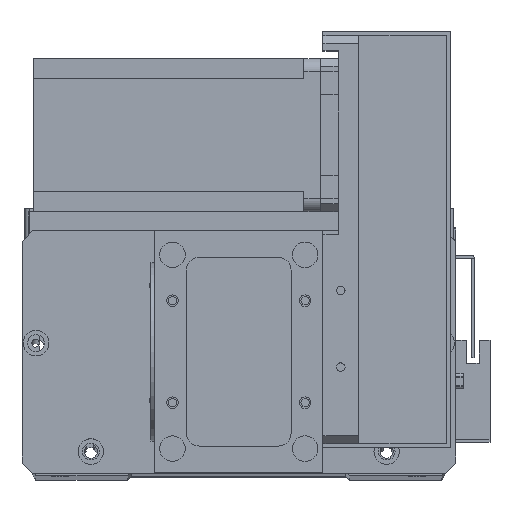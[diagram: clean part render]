
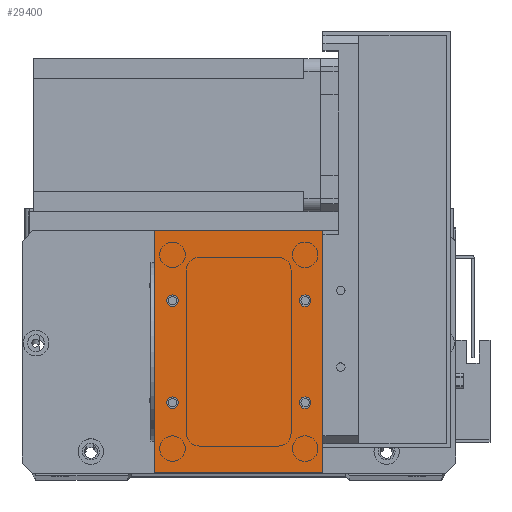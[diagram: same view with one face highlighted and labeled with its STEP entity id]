
A CAD part, top view. The second image highlights one B-rep face of the part: STEP entity #29400.
In plain terms, the highlighted planar face has unit normal (0, 0, 1).
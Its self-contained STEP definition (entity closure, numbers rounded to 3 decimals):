
#336 = EDGE_CURVE ( 'NONE', #11571, #9688, #523, .T. ) ;
#523 = CIRCLE ( 'NONE', #25957, 2.25 ) ;
#612 = ORIENTED_EDGE ( 'NONE', *, *, #6720, .T. ) ;
#632 = DIRECTION ( 'NONE',  ( 0., 1., 0. ) ) ;
#938 = AXIS2_PLACEMENT_3D ( 'NONE', #5453, #22619, #7917 ) ;
#2481 = CARTESIAN_POINT ( 'NONE',  ( 0., 95., 2. ) ) ;
#2779 = EDGE_CURVE ( 'NONE', #21069, #14179, #20001, .T. ) ;
#2877 = EDGE_LOOP ( 'NONE', ( #8292, #4698 ) ) ;
#3266 = AXIS2_PLACEMENT_3D ( 'NONE', #18095, #25471, #10801 ) ;
#3626 = DIRECTION ( 'NONE',  ( 0., 0., 1. ) ) ;
#3847 = VERTEX_POINT ( 'NONE', #27980 ) ;
#4087 = CARTESIAN_POINT ( 'NONE',  ( 59., 27.5, 2. ) ) ;
#4698 = ORIENTED_EDGE ( 'NONE', *, *, #27574, .F. ) ;
#4974 = CIRCLE ( 'NONE', #21291, 2.25 ) ;
#5453 = CARTESIAN_POINT ( 'NONE',  ( 59., 67.5, 2. ) ) ;
#5831 = FACE_BOUND ( 'NONE', #2877, .T. ) ;
#6563 = DIRECTION ( 'NONE',  ( 1., 0., 0. ) ) ;
#6704 = EDGE_LOOP ( 'NONE', ( #13776, #18610 ) ) ;
#6720 = EDGE_CURVE ( 'NONE', #24523, #27992, #27068, .T. ) ;
#6893 = VERTEX_POINT ( 'NONE', #10538 ) ;
#7282 = CIRCLE ( 'NONE', #9818, 2.25 ) ;
#7439 = EDGE_CURVE ( 'NONE', #11467, #23763, #16336, .T. ) ;
#7917 = DIRECTION ( 'NONE',  ( 1., 0., 0. ) ) ;
#8198 = PLANE ( 'NONE',  #3266 ) ;
#8271 = EDGE_CURVE ( 'NONE', #23763, #11467, #21639, .T. ) ;
#8292 = ORIENTED_EDGE ( 'NONE', *, *, #30642, .F. ) ;
#8588 = CARTESIAN_POINT ( 'NONE',  ( 56.75, 67.5, 2. ) ) ;
#8765 = DIRECTION ( 'NONE',  ( 1., 0., 0. ) ) ;
#8955 = EDGE_LOOP ( 'NONE', ( #19596, #26141 ) ) ;
#9002 = DIRECTION ( 'NONE',  ( 0., 0., 1. ) ) ;
#9212 = ORIENTED_EDGE ( 'NONE', *, *, #8271, .F. ) ;
#9688 = VERTEX_POINT ( 'NONE', #25672 ) ;
#9818 = AXIS2_PLACEMENT_3D ( 'NONE', #23714, #9002, #26186 ) ;
#10538 = CARTESIAN_POINT ( 'NONE',  ( 9.25, 67.5, 2. ) ) ;
#10801 = DIRECTION ( 'NONE',  ( -1., 0., 0. ) ) ;
#10852 = CARTESIAN_POINT ( 'NONE',  ( 0., 0., 2. ) ) ;
#11467 = VERTEX_POINT ( 'NONE', #22783 ) ;
#11571 = VERTEX_POINT ( 'NONE', #28549 ) ;
#12362 = AXIS2_PLACEMENT_3D ( 'NONE', #18343, #3626, #20800 ) ;
#12400 = FACE_BOUND ( 'NONE', #26612, .T. ) ;
#12555 = ORIENTED_EDGE ( 'NONE', *, *, #7439, .F. ) ;
#12662 = CARTESIAN_POINT ( 'NONE',  ( 59., 27.5, 2. ) ) ;
#13776 = ORIENTED_EDGE ( 'NONE', *, *, #14464, .F. ) ;
#14024 = VECTOR ( 'NONE', #19775, 1000. ) ;
#14032 = DIRECTION ( 'NONE',  ( 0., 0., 1. ) ) ;
#14179 = VERTEX_POINT ( 'NONE', #17350 ) ;
#14392 = CARTESIAN_POINT ( 'NONE',  ( 7., 67.5, 2. ) ) ;
#14464 = EDGE_CURVE ( 'NONE', #9688, #11571, #7282, .T. ) ;
#14601 = EDGE_CURVE ( 'NONE', #6893, #3847, #4974, .T. ) ;
#15129 = DIRECTION ( 'NONE',  ( 1., 0., 0. ) ) ;
#15972 = LINE ( 'NONE', #20301, #21692 ) ;
#16099 = EDGE_CURVE ( 'NONE', #27992, #21069, #17963, .T. ) ;
#16336 = CIRCLE ( 'NONE', #18649, 2.25 ) ;
#16864 = DIRECTION ( 'NONE',  ( 1., 0., 0. ) ) ;
#16891 = CARTESIAN_POINT ( 'NONE',  ( 66., 95., 2. ) ) ;
#17310 = EDGE_CURVE ( 'NONE', #14179, #24523, #15972, .T. ) ;
#17350 = CARTESIAN_POINT ( 'NONE',  ( 66., 0., 2. ) ) ;
#17747 = CIRCLE ( 'NONE', #12362, 2.25 ) ;
#17963 = LINE ( 'NONE', #20927, #28709 ) ;
#18095 = CARTESIAN_POINT ( 'NONE',  ( 0., 0., 2. ) ) ;
#18118 = CIRCLE ( 'NONE', #28794, 2.25 ) ;
#18343 = CARTESIAN_POINT ( 'NONE',  ( 7., 67.5, 2. ) ) ;
#18561 = ORIENTED_EDGE ( 'NONE', *, *, #2779, .T. ) ;
#18610 = ORIENTED_EDGE ( 'NONE', *, *, #336, .F. ) ;
#18649 = AXIS2_PLACEMENT_3D ( 'NONE', #12662, #29798, #15129 ) ;
#18756 = CARTESIAN_POINT ( 'NONE',  ( 0., 0., 2. ) ) ;
#18898 = FACE_BOUND ( 'NONE', #8955, .T. ) ;
#19596 = ORIENTED_EDGE ( 'NONE', *, *, #14601, .F. ) ;
#19730 = CARTESIAN_POINT ( 'NONE',  ( 0., 95., 2. ) ) ;
#19775 = DIRECTION ( 'NONE',  ( -1., 0., 0. ) ) ;
#20001 = LINE ( 'NONE', #10852, #31471 ) ;
#20301 = CARTESIAN_POINT ( 'NONE',  ( 66., 0., 2. ) ) ;
#20800 = DIRECTION ( 'NONE',  ( 1., 0., 0. ) ) ;
#20905 = CIRCLE ( 'NONE', #938, 2.25 ) ;
#20927 = CARTESIAN_POINT ( 'NONE',  ( 0., 0., 2. ) ) ;
#21069 = VERTEX_POINT ( 'NONE', #18756 ) ;
#21240 = DIRECTION ( 'NONE',  ( 0., 0., 1. ) ) ;
#21291 = AXIS2_PLACEMENT_3D ( 'NONE', #14392, #31528, #16864 ) ;
#21639 = CIRCLE ( 'NONE', #25467, 2.25 ) ;
#21692 = VECTOR ( 'NONE', #632, 1000. ) ;
#22262 = VERTEX_POINT ( 'NONE', #8588 ) ;
#22619 = DIRECTION ( 'NONE',  ( 0., 0., 1. ) ) ;
#22783 = CARTESIAN_POINT ( 'NONE',  ( 56.75, 27.5, 2. ) ) ;
#23374 = ORIENTED_EDGE ( 'NONE', *, *, #17310, .T. ) ;
#23409 = DIRECTION ( 'NONE',  ( 0., -1., 0. ) ) ;
#23714 = CARTESIAN_POINT ( 'NONE',  ( 7., 27.5, 2. ) ) ;
#23763 = VERTEX_POINT ( 'NONE', #28197 ) ;
#24003 = DIRECTION ( 'NONE',  ( 1., 0., 0. ) ) ;
#24338 = DIRECTION ( 'NONE',  ( 0., 0., 1. ) ) ;
#24439 = CARTESIAN_POINT ( 'NONE',  ( 7., 27.5, 2. ) ) ;
#24523 = VERTEX_POINT ( 'NONE', #16891 ) ;
#24656 = FACE_OUTER_BOUND ( 'NONE', #25139, .T. ) ;
#25139 = EDGE_LOOP ( 'NONE', ( #31119, #18561, #23374, #612 ) ) ;
#25467 = AXIS2_PLACEMENT_3D ( 'NONE', #4087, #21240, #6563 ) ;
#25471 = DIRECTION ( 'NONE',  ( 0., 0., -1. ) ) ;
#25672 = CARTESIAN_POINT ( 'NONE',  ( 9.25, 27.5, 2. ) ) ;
#25957 = AXIS2_PLACEMENT_3D ( 'NONE', #24439, #24338, #24003 ) ;
#26141 = ORIENTED_EDGE ( 'NONE', *, *, #30489, .F. ) ;
#26186 = DIRECTION ( 'NONE',  ( 1., 0., 0. ) ) ;
#26612 = EDGE_LOOP ( 'NONE', ( #9212, #12555 ) ) ;
#27068 = LINE ( 'NONE', #2481, #14024 ) ;
#27214 = CARTESIAN_POINT ( 'NONE',  ( 61.25, 67.5, 2. ) ) ;
#27574 = EDGE_CURVE ( 'NONE', #22262, #28030, #20905, .T. ) ;
#27980 = CARTESIAN_POINT ( 'NONE',  ( 4.75, 67.5, 2. ) ) ;
#27992 = VERTEX_POINT ( 'NONE', #19730 ) ;
#28030 = VERTEX_POINT ( 'NONE', #27214 ) ;
#28197 = CARTESIAN_POINT ( 'NONE',  ( 61.25, 27.5, 2. ) ) ;
#28549 = CARTESIAN_POINT ( 'NONE',  ( 4.75, 27.5, 2. ) ) ;
#28709 = VECTOR ( 'NONE', #23409, 1000. ) ;
#28742 = CARTESIAN_POINT ( 'NONE',  ( 59., 67.5, 2. ) ) ;
#28794 = AXIS2_PLACEMENT_3D ( 'NONE', #28742, #14032, #31167 ) ;
#29400 = ADVANCED_FACE ( 'NONE', ( #18898, #5831, #12400, #31151, #24656 ), #8198, .F. ) ;
#29798 = DIRECTION ( 'NONE',  ( 0., 0., 1. ) ) ;
#30489 = EDGE_CURVE ( 'NONE', #3847, #6893, #17747, .T. ) ;
#30642 = EDGE_CURVE ( 'NONE', #28030, #22262, #18118, .T. ) ;
#31119 = ORIENTED_EDGE ( 'NONE', *, *, #16099, .T. ) ;
#31151 = FACE_BOUND ( 'NONE', #6704, .T. ) ;
#31167 = DIRECTION ( 'NONE',  ( 1., 0., 0. ) ) ;
#31471 = VECTOR ( 'NONE', #8765, 1000. ) ;
#31528 = DIRECTION ( 'NONE',  ( 0., 0., 1. ) ) ;
